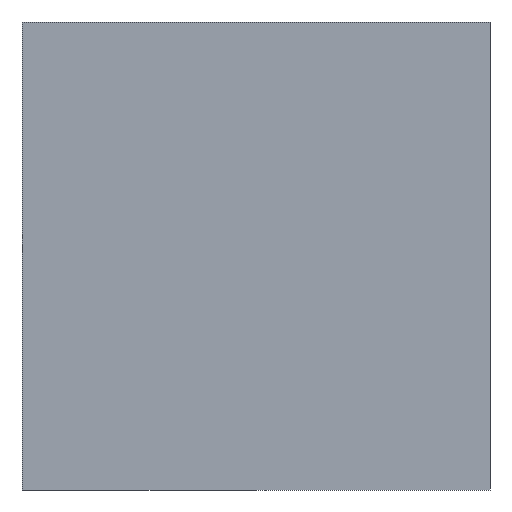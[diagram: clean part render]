
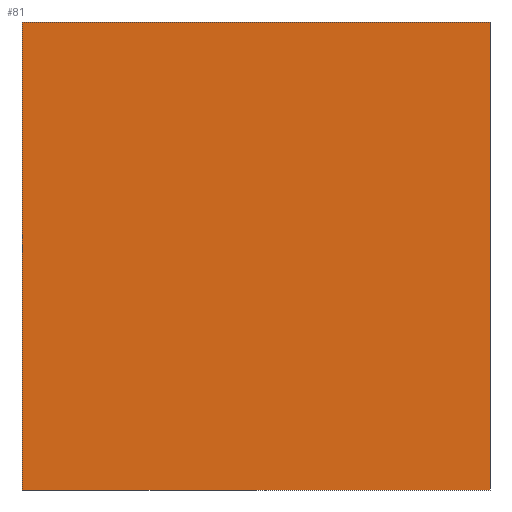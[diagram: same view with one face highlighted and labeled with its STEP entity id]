
A CAD part, left-side view. The second image highlights one B-rep face of the part: STEP entity #81.
In plain terms, the highlighted planar face has unit normal (-1, 0, 0).
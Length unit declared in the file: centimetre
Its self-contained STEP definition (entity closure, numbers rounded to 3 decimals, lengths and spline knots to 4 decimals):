
#8 = CARTESIAN_POINT ( 'NONE',  ( 0., 0., 1000. ) ) ;
#15 = FACE_OUTER_BOUND ( 'NONE', #146, .T. ) ;
#18 = VECTOR ( 'NONE', #279, 100. ) ;
#26 = CARTESIAN_POINT ( 'NONE',  ( 0., 1000., 0. ) ) ;
#43 = DIRECTION ( 'NONE',  ( 0., -1., 0. ) ) ;
#70 = ORIENTED_EDGE ( 'NONE', *, *, #407, .F. ) ;
#77 = CARTESIAN_POINT ( 'NONE',  ( 0., 1000., 1000. ) ) ;
#80 = PLANE ( 'NONE',  #340 ) ;
#81 = ADVANCED_FACE ( 'NONE', ( #15 ), #80, .F. ) ;
#97 = ORIENTED_EDGE ( 'NONE', *, *, #321, .T. ) ;
#109 = CARTESIAN_POINT ( 'NONE',  ( 0., 0., 1000. ) ) ;
#110 = VECTOR ( 'NONE', #209, 100. ) ;
#118 = CARTESIAN_POINT ( 'NONE',  ( 0., 1000., 0. ) ) ;
#132 = VERTEX_POINT ( 'NONE', #109 ) ;
#138 = DIRECTION ( 'NONE',  ( 0., 0., -1. ) ) ;
#146 = EDGE_LOOP ( 'NONE', ( #182, #70, #160, #97 ) ) ;
#160 = ORIENTED_EDGE ( 'NONE', *, *, #183, .F. ) ;
#169 = CARTESIAN_POINT ( 'NONE',  ( 0., 1000., 1000. ) ) ;
#182 = ORIENTED_EDGE ( 'NONE', *, *, #335, .T. ) ;
#183 = EDGE_CURVE ( 'NONE', #189, #132, #262, .T. ) ;
#189 = VERTEX_POINT ( 'NONE', #77 ) ;
#209 = DIRECTION ( 'NONE',  ( 0., 0., -1. ) ) ;
#214 = LINE ( 'NONE', #8, #18 ) ;
#225 = VERTEX_POINT ( 'NONE', #399 ) ;
#244 = DIRECTION ( 'NONE',  ( 0., -1., 0. ) ) ;
#245 = VECTOR ( 'NONE', #244, 100. ) ;
#262 = LINE ( 'NONE', #392, #304 ) ;
#273 = LINE ( 'NONE', #344, #110 ) ;
#279 = DIRECTION ( 'NONE',  ( 0., 0., -1. ) ) ;
#304 = VECTOR ( 'NONE', #43, 100. ) ;
#321 = EDGE_CURVE ( 'NONE', #189, #361, #273, .T. ) ;
#335 = EDGE_CURVE ( 'NONE', #361, #225, #338, .T. ) ;
#338 = LINE ( 'NONE', #118, #245 ) ;
#340 = AXIS2_PLACEMENT_3D ( 'NONE', #169, #369, #138 ) ;
#344 = CARTESIAN_POINT ( 'NONE',  ( 0., 1000., 1000. ) ) ;
#361 = VERTEX_POINT ( 'NONE', #26 ) ;
#369 = DIRECTION ( 'NONE',  ( 1., 0., 0. ) ) ;
#392 = CARTESIAN_POINT ( 'NONE',  ( 0., 1000., 1000. ) ) ;
#399 = CARTESIAN_POINT ( 'NONE',  ( 0., 0., 0. ) ) ;
#407 = EDGE_CURVE ( 'NONE', #132, #225, #214, .T. ) ;
